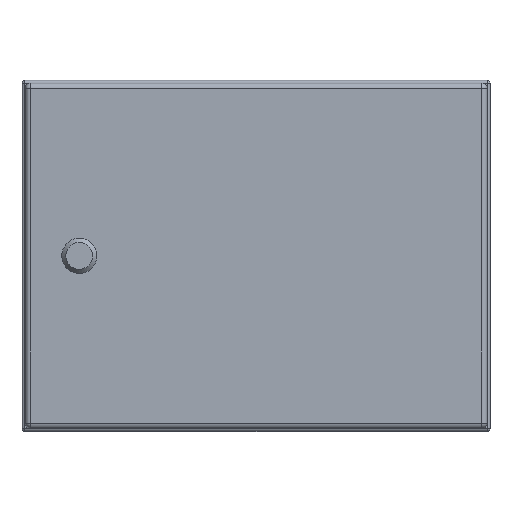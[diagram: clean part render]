
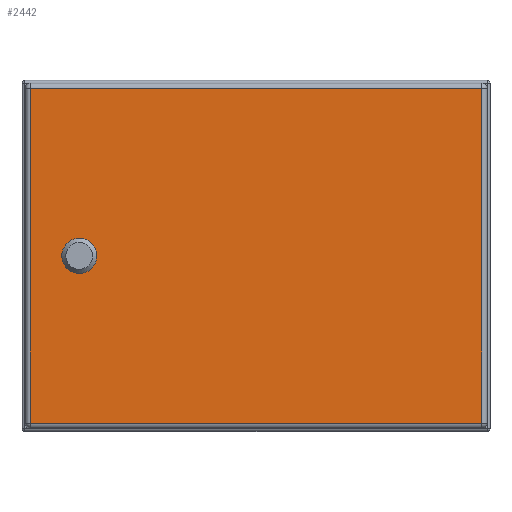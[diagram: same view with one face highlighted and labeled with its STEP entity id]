
A CAD part, top view. The second image highlights one B-rep face of the part: STEP entity #2442.
In plain terms, the highlighted planar face has unit normal (0, 0, 1) as drawn and (0, 0, -1) by its records, which use the part's own axes.
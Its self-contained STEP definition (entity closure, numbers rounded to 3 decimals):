
#41 = LINE ( 'NONE', #2595, #3317 ) ;
#81 = CARTESIAN_POINT ( 'NONE',  ( 161.05, -5.056, 0. ) ) ;
#106 = CARTESIAN_POINT ( 'NONE',  ( 193., 143., 0. ) ) ;
#113 = CIRCLE ( 'NONE', #5605, 11.25 ) ;
#192 = DIRECTION ( 'NONE',  ( 0., 0., -1. ) ) ;
#262 = CARTESIAN_POINT ( 'NONE',  ( 156.056, -10.05, 0. ) ) ;
#288 = PLANE ( 'NONE',  #1418 ) ;
#370 = DIRECTION ( 'NONE',  ( 0., 0., -1. ) ) ;
#579 = CARTESIAN_POINT ( 'NONE',  ( 140.95, -5.056, 0. ) ) ;
#624 = VECTOR ( 'NONE', #5754, 1000. ) ;
#691 = CARTESIAN_POINT ( 'NONE',  ( -193., 143., 0. ) ) ;
#747 = CARTESIAN_POINT ( 'NONE',  ( 193., -147.5, 0. ) ) ;
#748 = DIRECTION ( 'NONE',  ( -1., 0., 0. ) ) ;
#787 = DIRECTION ( 'NONE',  ( 0., 0., -1. ) ) ;
#795 = FACE_BOUND ( 'NONE', #4611, .T. ) ;
#886 = CARTESIAN_POINT ( 'NONE',  ( 156.056, -10.05, 0. ) ) ;
#912 = FACE_OUTER_BOUND ( 'NONE', #3496, .T. ) ;
#1204 = CIRCLE ( 'NONE', #7733, 11.25 ) ;
#1291 = AXIS2_PLACEMENT_3D ( 'NONE', #5799, #192, #5246 ) ;
#1358 = VECTOR ( 'NONE', #3089, 1000. ) ;
#1418 = AXIS2_PLACEMENT_3D ( 'NONE', #7693, #370, #2870 ) ;
#1529 = VERTEX_POINT ( 'NONE', #2297 ) ;
#1587 = CARTESIAN_POINT ( 'NONE',  ( -193., -143., 0. ) ) ;
#1745 = CARTESIAN_POINT ( 'NONE',  ( 140.95, -5.056, 0. ) ) ;
#1837 = DIRECTION ( 'NONE',  ( 1., 0., 0. ) ) ;
#2007 = EDGE_CURVE ( 'NONE', #5222, #5392, #6441, .T. ) ;
#2098 = VERTEX_POINT ( 'NONE', #886 ) ;
#2297 = CARTESIAN_POINT ( 'NONE',  ( 193., -143., 0. ) ) ;
#2343 = CARTESIAN_POINT ( 'NONE',  ( 151., 0., 0. ) ) ;
#2352 = CARTESIAN_POINT ( 'NONE',  ( 145.944, -10.05, 0. ) ) ;
#2442 = ADVANCED_FACE ( 'NONE', ( #795, #912 ), #288, .T. ) ;
#2550 = DIRECTION ( 'NONE',  ( 0., -1., 0. ) ) ;
#2558 = VECTOR ( 'NONE', #4354, 1000. ) ;
#2595 = CARTESIAN_POINT ( 'NONE',  ( 161.05, -5.056, 0. ) ) ;
#2616 = CARTESIAN_POINT ( 'NONE',  ( 151., 0., 0. ) ) ;
#2720 = LINE ( 'NONE', #5942, #5101 ) ;
#2757 = DIRECTION ( 'NONE',  ( -1., 0., 0. ) ) ;
#2822 = EDGE_CURVE ( 'NONE', #5392, #1529, #5769, .T. ) ;
#2870 = DIRECTION ( 'NONE',  ( -1., 0., 0. ) ) ;
#3089 = DIRECTION ( 'NONE',  ( 0., 1., 0. ) ) ;
#3262 = CARTESIAN_POINT ( 'NONE',  ( 197.5, 143., 0. ) ) ;
#3317 = VECTOR ( 'NONE', #2550, 1000. ) ;
#3328 = ORIENTED_EDGE ( 'NONE', *, *, #7630, .F. ) ;
#3351 = EDGE_CURVE ( 'NONE', #5958, #7167, #4213, .T. ) ;
#3439 = VERTEX_POINT ( 'NONE', #2352 ) ;
#3476 = ORIENTED_EDGE ( 'NONE', *, *, #2007, .T. ) ;
#3496 = EDGE_LOOP ( 'NONE', ( #6664, #3476, #7907, #4589 ) ) ;
#3528 = VERTEX_POINT ( 'NONE', #6841 ) ;
#3600 = CARTESIAN_POINT ( 'NONE',  ( -193., 147.5, 0. ) ) ;
#3627 = DIRECTION ( 'NONE',  ( 0., 0., -1. ) ) ;
#4075 = EDGE_CURVE ( 'NONE', #5476, #5222, #4420, .T. ) ;
#4083 = LINE ( 'NONE', #262, #6516 ) ;
#4213 = LINE ( 'NONE', #1745, #1358 ) ;
#4286 = DIRECTION ( 'NONE',  ( 1., 0., 0. ) ) ;
#4309 = DIRECTION ( 'NONE',  ( 0., 0., -1. ) ) ;
#4354 = DIRECTION ( 'NONE',  ( 1., 0., 0. ) ) ;
#4420 = LINE ( 'NONE', #3600, #4917 ) ;
#4499 = CIRCLE ( 'NONE', #6824, 11.25 ) ;
#4589 = ORIENTED_EDGE ( 'NONE', *, *, #8056, .T. ) ;
#4611 = EDGE_LOOP ( 'NONE', ( #6300, #7189, #3328, #5837, #4880, #5502, #5870, #6982 ) ) ;
#4829 = VERTEX_POINT ( 'NONE', #7254 ) ;
#4833 = CIRCLE ( 'NONE', #1291, 11.25 ) ;
#4880 = ORIENTED_EDGE ( 'NONE', *, *, #7062, .F. ) ;
#4903 = VERTEX_POINT ( 'NONE', #6013 ) ;
#4917 = VECTOR ( 'NONE', #5481, 1000. ) ;
#5101 = VECTOR ( 'NONE', #5900, 1000. ) ;
#5222 = VERTEX_POINT ( 'NONE', #691 ) ;
#5246 = DIRECTION ( 'NONE',  ( -1., 0., 0. ) ) ;
#5392 = VERTEX_POINT ( 'NONE', #106 ) ;
#5437 = VECTOR ( 'NONE', #7643, 1000. ) ;
#5476 = VERTEX_POINT ( 'NONE', #1587 ) ;
#5481 = DIRECTION ( 'NONE',  ( 0., 1., 0. ) ) ;
#5502 = ORIENTED_EDGE ( 'NONE', *, *, #6800, .F. ) ;
#5605 = AXIS2_PLACEMENT_3D ( 'NONE', #2343, #3627, #4286 ) ;
#5671 = EDGE_CURVE ( 'NONE', #4903, #6482, #41, .T. ) ;
#5754 = DIRECTION ( 'NONE',  ( 1., 0., 0. ) ) ;
#5769 = LINE ( 'NONE', #747, #5437 ) ;
#5799 = CARTESIAN_POINT ( 'NONE',  ( 151., 0., 0. ) ) ;
#5837 = ORIENTED_EDGE ( 'NONE', *, *, #5671, .F. ) ;
#5870 = ORIENTED_EDGE ( 'NONE', *, *, #7414, .F. ) ;
#5900 = DIRECTION ( 'NONE',  ( -1., 0., 0. ) ) ;
#5942 = CARTESIAN_POINT ( 'NONE',  ( -197.5, -143., 0. ) ) ;
#5958 = VERTEX_POINT ( 'NONE', #579 ) ;
#6013 = CARTESIAN_POINT ( 'NONE',  ( 161.05, 5.056, 0. ) ) ;
#6300 = ORIENTED_EDGE ( 'NONE', *, *, #6814, .F. ) ;
#6441 = LINE ( 'NONE', #3262, #624 ) ;
#6482 = VERTEX_POINT ( 'NONE', #81 ) ;
#6516 = VECTOR ( 'NONE', #2757, 1000. ) ;
#6664 = ORIENTED_EDGE ( 'NONE', *, *, #4075, .T. ) ;
#6779 = CARTESIAN_POINT ( 'NONE',  ( 151., 0., 0. ) ) ;
#6786 = CARTESIAN_POINT ( 'NONE',  ( 156.056, 10.05, 0. ) ) ;
#6800 = EDGE_CURVE ( 'NONE', #3528, #4829, #7413, .T. ) ;
#6814 = EDGE_CURVE ( 'NONE', #3439, #5958, #1204, .T. ) ;
#6824 = AXIS2_PLACEMENT_3D ( 'NONE', #6779, #4309, #1837 ) ;
#6841 = CARTESIAN_POINT ( 'NONE',  ( 145.944, 10.05, 0. ) ) ;
#6982 = ORIENTED_EDGE ( 'NONE', *, *, #3351, .F. ) ;
#7062 = EDGE_CURVE ( 'NONE', #4829, #4903, #4499, .T. ) ;
#7167 = VERTEX_POINT ( 'NONE', #7678 ) ;
#7189 = ORIENTED_EDGE ( 'NONE', *, *, #8096, .F. ) ;
#7254 = CARTESIAN_POINT ( 'NONE',  ( 156.056, 10.05, 0. ) ) ;
#7413 = LINE ( 'NONE', #6786, #2558 ) ;
#7414 = EDGE_CURVE ( 'NONE', #7167, #3528, #113, .T. ) ;
#7630 = EDGE_CURVE ( 'NONE', #6482, #2098, #4833, .T. ) ;
#7643 = DIRECTION ( 'NONE',  ( 0., -1., 0. ) ) ;
#7678 = CARTESIAN_POINT ( 'NONE',  ( 140.95, 5.056, 0. ) ) ;
#7693 = CARTESIAN_POINT ( 'NONE',  ( 197.5, 147.5, 0. ) ) ;
#7733 = AXIS2_PLACEMENT_3D ( 'NONE', #2616, #787, #748 ) ;
#7907 = ORIENTED_EDGE ( 'NONE', *, *, #2822, .T. ) ;
#8056 = EDGE_CURVE ( 'NONE', #1529, #5476, #2720, .T. ) ;
#8096 = EDGE_CURVE ( 'NONE', #2098, #3439, #4083, .T. ) ;
